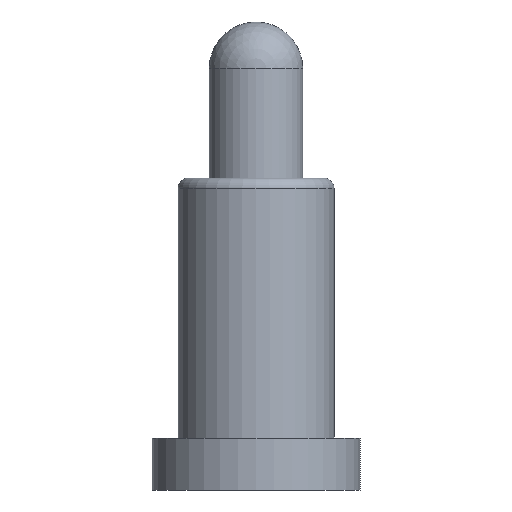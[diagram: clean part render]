
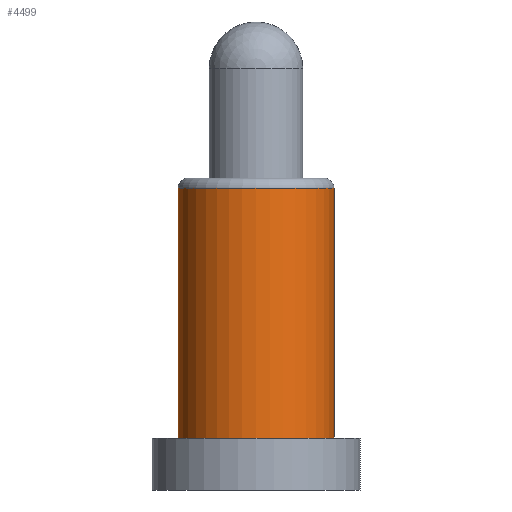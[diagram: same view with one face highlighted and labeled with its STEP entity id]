
A CAD part, front view. The second image highlights one B-rep face of the part: STEP entity #4499.
In plain terms, the highlighted cylindrical face has radius 0.75 mm (diameter 1.5 mm), a partial arc.
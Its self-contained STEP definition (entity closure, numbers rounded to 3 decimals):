
#301 = DIRECTION ( 'NONE',  ( 0., 0., -1. ) ) ;
#755 = CARTESIAN_POINT ( 'NONE',  ( 0., 0., 3. ) ) ;
#1108 = DIRECTION ( 'NONE',  ( 0., 0., 1. ) ) ;
#1118 = VERTEX_POINT ( 'NONE', #4816 ) ;
#1289 = EDGE_CURVE ( 'NONE', #5825, #1118, #11340, .T. ) ;
#1986 = CARTESIAN_POINT ( 'NONE',  ( -0.75, 0., 0.5 ) ) ;
#2253 = CARTESIAN_POINT ( 'NONE',  ( 0.75, 0., 2.9 ) ) ;
#2458 = CYLINDRICAL_SURFACE ( 'NONE', #8016, 0.75 ) ;
#2586 = CARTESIAN_POINT ( 'NONE',  ( 0., 0., 2.9 ) ) ;
#3871 = EDGE_CURVE ( 'NONE', #4117, #10909, #4733, .T. ) ;
#4037 = EDGE_CURVE ( 'NONE', #5825, #4117, #9477, .T. ) ;
#4117 = VERTEX_POINT ( 'NONE', #6307 ) ;
#4316 = ORIENTED_EDGE ( 'NONE', *, *, #1289, .F. ) ;
#4327 = DIRECTION ( 'NONE',  ( 0., 0., -1. ) ) ;
#4451 = AXIS2_PLACEMENT_3D ( 'NONE', #2586, #6136, #9669 ) ;
#4499 = ADVANCED_FACE ( 'NONE', ( #10403 ), #2458, .T. ) ;
#4664 = DIRECTION ( 'NONE',  ( 1., 0., 0. ) ) ;
#4733 = LINE ( 'NONE', #8307, #10711 ) ;
#4816 = CARTESIAN_POINT ( 'NONE',  ( 0.75, 0., 0.5 ) ) ;
#4894 = AXIS2_PLACEMENT_3D ( 'NONE', #9096, #1108, #4664 ) ;
#5825 = VERTEX_POINT ( 'NONE', #2253 ) ;
#6099 = CARTESIAN_POINT ( 'NONE',  ( 0.75, 0., 3. ) ) ;
#6136 = DIRECTION ( 'NONE',  ( 0., 0., -1. ) ) ;
#6307 = CARTESIAN_POINT ( 'NONE',  ( -0.75, 0., 2.9 ) ) ;
#6334 = EDGE_CURVE ( 'NONE', #10909, #1118, #9877, .T. ) ;
#6618 = ORIENTED_EDGE ( 'NONE', *, *, #4037, .T. ) ;
#6809 = ORIENTED_EDGE ( 'NONE', *, *, #3871, .T. ) ;
#7908 = DIRECTION ( 'NONE',  ( -1., 0., 0. ) ) ;
#8016 = AXIS2_PLACEMENT_3D ( 'NONE', #755, #4327, #7908 ) ;
#8307 = CARTESIAN_POINT ( 'NONE',  ( -0.75, 0., 3. ) ) ;
#8669 = EDGE_LOOP ( 'NONE', ( #4316, #6618, #6809, #11284 ) ) ;
#9096 = CARTESIAN_POINT ( 'NONE',  ( 0., 0., 0.5 ) ) ;
#9477 = CIRCLE ( 'NONE', #4451, 0.75 ) ;
#9629 = DIRECTION ( 'NONE',  ( 0., 0., -1. ) ) ;
#9669 = DIRECTION ( 'NONE',  ( 1., 0., 0. ) ) ;
#9877 = CIRCLE ( 'NONE', #4894, 0.75 ) ;
#10071 = VECTOR ( 'NONE', #9629, 1000. ) ;
#10403 = FACE_OUTER_BOUND ( 'NONE', #8669, .T. ) ;
#10711 = VECTOR ( 'NONE', #301, 1000. ) ;
#10909 = VERTEX_POINT ( 'NONE', #1986 ) ;
#11284 = ORIENTED_EDGE ( 'NONE', *, *, #6334, .T. ) ;
#11340 = LINE ( 'NONE', #6099, #10071 ) ;
